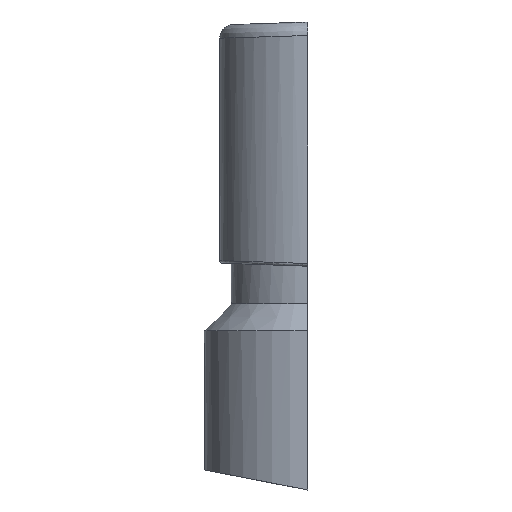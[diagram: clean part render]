
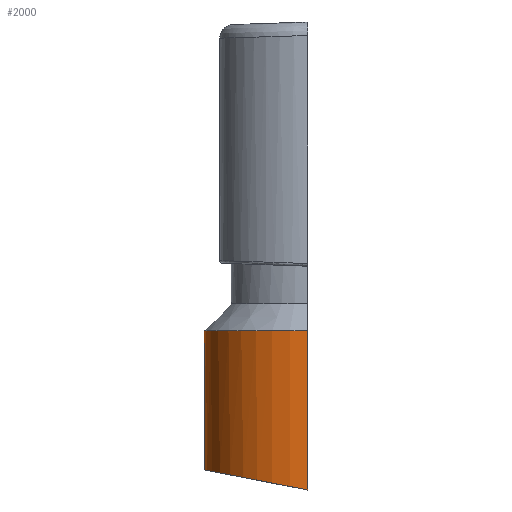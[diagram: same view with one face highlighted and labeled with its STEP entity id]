
A CAD part, left-side view. The second image highlights one B-rep face of the part: STEP entity #2000.
In plain terms, the highlighted cylindrical face has radius 38.25 mm (diameter 76.5 mm), a partial arc.
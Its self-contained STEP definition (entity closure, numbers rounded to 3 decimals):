
#1507 = CARTESIAN_POINT ( 'NONE',  ( -38.25, 0., -83.858 ) ) ;
#1595 = DIRECTION ( 'NONE',  ( -1., 0., 0. ) ) ;
#1596 = DIRECTION ( 'NONE',  ( 0., 0., -1. ) ) ;
#1597 = CARTESIAN_POINT ( 'NONE',  ( 0., 0., -25. ) ) ;
#1598 = AXIS2_PLACEMENT_3D ( 'NONE', #1597, #1596, #1595 ) ;
#1599 = CIRCLE ( 'NONE', #1598, 38.25 ) ;
#1600 = CARTESIAN_POINT ( 'NONE',  ( 38.25, 0., -25. ) ) ;
#1605 = CYLINDRICAL_SURFACE ( 'NONE', #1650, 38.25 ) ;
#1606 = FACE_OUTER_BOUND ( 'NONE', #1966, .T. ) ;
#1612 = CARTESIAN_POINT ( 'NONE',  ( 38.25, 0., -83.858 ) ) ;
#1620 = CARTESIAN_POINT ( 'NONE',  ( -38.25, 0., -25. ) ) ;
#1633 =( BOUNDED_CURVE ( )  B_SPLINE_CURVE ( 3, ( #1678, #1677, #1676, #1675 ),
 .UNSPECIFIED., .F., .T. ) 
 B_SPLINE_CURVE_WITH_KNOTS ( ( 4, 4 ),
 ( 4.712, 7.854 ),
 .UNSPECIFIED. ) 
 CURVE ( )  GEOMETRIC_REPRESENTATION_ITEM ( )  RATIONAL_B_SPLINE_CURVE ( ( 1., 0.333, 0.333, 1. ) ) 
 REPRESENTATION_ITEM ( '' )  );
#1634 = DIRECTION ( 'NONE',  ( 0., 0., 1. ) ) ;
#1635 = VECTOR ( 'NONE', #1634, 1000. ) ;
#1636 = CARTESIAN_POINT ( 'NONE',  ( -38.25, 0., -75.5 ) ) ;
#1637 = LINE ( 'NONE', #1636, #1635 ) ;
#1647 = DIRECTION ( 'NONE',  ( 1., 0., 0. ) ) ;
#1648 = DIRECTION ( 'NONE',  ( 0., 0., 1. ) ) ;
#1649 = CARTESIAN_POINT ( 'NONE',  ( 0., 0., -75. ) ) ;
#1650 = AXIS2_PLACEMENT_3D ( 'NONE', #1649, #1648, #1647 ) ;
#1671 = DIRECTION ( 'NONE',  ( 0., 0., 1. ) ) ;
#1672 = VECTOR ( 'NONE', #1671, 1000. ) ;
#1673 = CARTESIAN_POINT ( 'NONE',  ( 38.25, 0., -75.5 ) ) ;
#1674 = LINE ( 'NONE', #1673, #1672 ) ;
#1675 = CARTESIAN_POINT ( 'NONE',  ( 38.25, 0., -83.858 ) ) ;
#1676 = CARTESIAN_POINT ( 'NONE',  ( 38.25, 76.5, -68.988 ) ) ;
#1677 = CARTESIAN_POINT ( 'NONE',  ( -38.25, 76.5, -68.988 ) ) ;
#1678 = CARTESIAN_POINT ( 'NONE',  ( -38.25, 0., -83.858 ) ) ;
#1936 = ORIENTED_EDGE ( 'NONE', *, *, #1974, .T. ) ;
#1937 = VERTEX_POINT ( 'NONE', #1507 ) ;
#1966 = EDGE_LOOP ( 'NONE', ( #1970, #1936, #1985, #2007 ) ) ;
#1970 = ORIENTED_EDGE ( 'NONE', *, *, #2004, .T. ) ;
#1973 = VERTEX_POINT ( 'NONE', #1600 ) ;
#1974 = EDGE_CURVE ( 'NONE', #1987, #1973, #1599, .T. ) ;
#1985 = ORIENTED_EDGE ( 'NONE', *, *, #2006, .F. ) ;
#1987 = VERTEX_POINT ( 'NONE', #1620 ) ;
#1998 = VERTEX_POINT ( 'NONE', #1612 ) ;
#2000 = ADVANCED_FACE ( 'NONE', ( #1606 ), #1605, .T. ) ;
#2004 = EDGE_CURVE ( 'NONE', #1937, #1987, #1637, .T. ) ;
#2005 = EDGE_CURVE ( 'NONE', #1937, #1998, #1633, .T. ) ;
#2006 = EDGE_CURVE ( 'NONE', #1998, #1973, #1674, .T. ) ;
#2007 = ORIENTED_EDGE ( 'NONE', *, *, #2005, .F. ) ;
